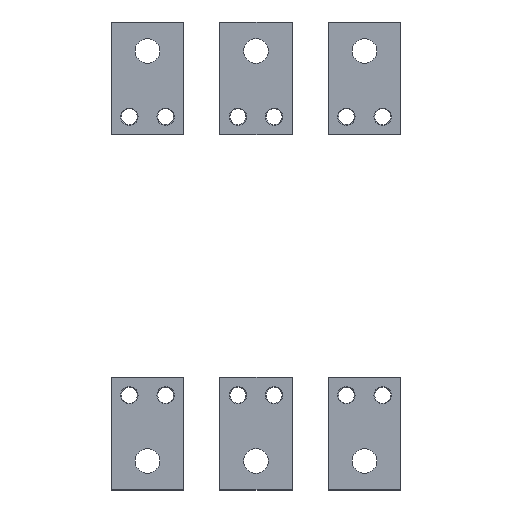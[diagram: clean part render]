
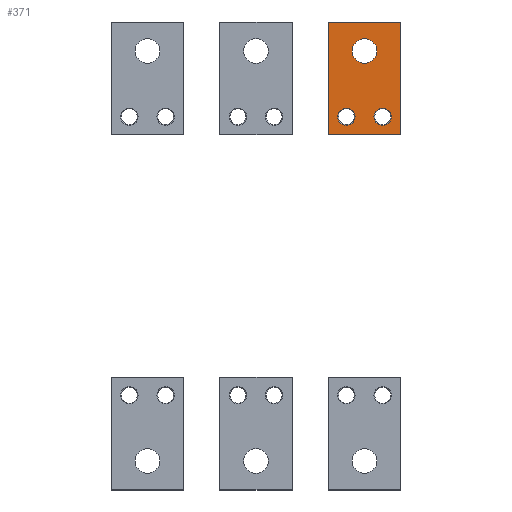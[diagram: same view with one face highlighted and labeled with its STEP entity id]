
A CAD part, top view. The second image highlights one B-rep face of the part: STEP entity #371.
In plain terms, the highlighted planar face has unit normal (0, 0, 1).
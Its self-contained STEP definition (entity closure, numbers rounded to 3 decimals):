
#19 = VERTEX_POINT ( 'NONE', #2796 ) ;
#23 = DIRECTION ( 'NONE',  ( -1., 0., 0. ) ) ;
#133 = CARTESIAN_POINT ( 'NONE',  ( 83.5, 141.7, 37.75 ) ) ;
#171 = VERTEX_POINT ( 'NONE', #133 ) ;
#258 = DIRECTION ( 'NONE',  ( -1., 0., 0. ) ) ;
#268 = AXIS2_PLACEMENT_3D ( 'NONE', #3243, #3887, #3191 ) ;
#285 = ORIENTED_EDGE ( 'NONE', *, *, #2612, .T. ) ;
#293 = AXIS2_PLACEMENT_3D ( 'NONE', #2474, #3850, #3524 ) ;
#321 = CARTESIAN_POINT ( 'NONE',  ( 75., 141.7, 37.75 ) ) ;
#371 = ADVANCED_FACE ( 'NONE', ( #1060, #1971, #2928, #3288 ), #1953, .T. ) ;
#410 = LINE ( 'NONE', #3960, #4114 ) ;
#522 = DIRECTION ( 'NONE',  ( 0., -1., 0. ) ) ;
#572 = ORIENTED_EDGE ( 'NONE', *, *, #2655, .T. ) ;
#619 = AXIS2_PLACEMENT_3D ( 'NONE', #321, #2687, #4074 ) ;
#622 = CARTESIAN_POINT ( 'NONE',  ( 56.5, 96.2, 37.75 ) ) ;
#632 = AXIS2_PLACEMENT_3D ( 'NONE', #1684, #1279, #1639 ) ;
#727 = CARTESIAN_POINT ( 'NONE',  ( 62.5, 96.2, 37.75 ) ) ;
#764 = CARTESIAN_POINT ( 'NONE',  ( 100., 83.7, 37.75 ) ) ;
#809 = ORIENTED_EDGE ( 'NONE', *, *, #3052, .F. ) ;
#817 = CARTESIAN_POINT ( 'NONE',  ( 66.5, 141.7, 37.75 ) ) ;
#841 = EDGE_LOOP ( 'NONE', ( #2939, #572 ) ) ;
#885 = CARTESIAN_POINT ( 'NONE',  ( 68.5, 96.2, 37.75 ) ) ;
#991 = LINE ( 'NONE', #1905, #3212 ) ;
#1020 = EDGE_CURVE ( 'NONE', #4365, #1793, #2222, .T. ) ;
#1060 = FACE_BOUND ( 'NONE', #841, .T. ) ;
#1088 = DIRECTION ( 'NONE',  ( 0., 1., 0. ) ) ;
#1138 = DIRECTION ( 'NONE',  ( 0., 0., -1. ) ) ;
#1187 = AXIS2_PLACEMENT_3D ( 'NONE', #2038, #1698, #23 ) ;
#1234 = EDGE_CURVE ( 'NONE', #4068, #3106, #1399, .T. ) ;
#1279 = DIRECTION ( 'NONE',  ( 0., 0., -1. ) ) ;
#1316 = DIRECTION ( 'NONE',  ( 0., 0., 1. ) ) ;
#1397 = LINE ( 'NONE', #764, #2428 ) ;
#1399 = CIRCLE ( 'NONE', #632, 6. ) ;
#1639 = DIRECTION ( 'NONE',  ( -1., 0., 0. ) ) ;
#1645 = EDGE_CURVE ( 'NONE', #3166, #19, #991, .T. ) ;
#1656 = EDGE_LOOP ( 'NONE', ( #809, #2212 ) ) ;
#1684 = CARTESIAN_POINT ( 'NONE',  ( 87.5, 96.2, 37.75 ) ) ;
#1698 = DIRECTION ( 'NONE',  ( 0., 0., 1. ) ) ;
#1749 = EDGE_CURVE ( 'NONE', #19, #3219, #2471, .T. ) ;
#1758 = EDGE_CURVE ( 'NONE', #2763, #3166, #410, .T. ) ;
#1793 = VERTEX_POINT ( 'NONE', #622 ) ;
#1905 = CARTESIAN_POINT ( 'NONE',  ( 50., 83.7, 37.75 ) ) ;
#1922 = CARTESIAN_POINT ( 'NONE',  ( 100., 83.7, 37.75 ) ) ;
#1937 = AXIS2_PLACEMENT_3D ( 'NONE', #3312, #1316, #4032 ) ;
#1944 = ORIENTED_EDGE ( 'NONE', *, *, #1645, .T. ) ;
#1953 = PLANE ( 'NONE',  #1937 ) ;
#1971 = FACE_BOUND ( 'NONE', #3967, .T. ) ;
#1987 = CARTESIAN_POINT ( 'NONE',  ( 50., 161.7, 37.75 ) ) ;
#2038 = CARTESIAN_POINT ( 'NONE',  ( 75., 141.7, 37.75 ) ) ;
#2095 = VECTOR ( 'NONE', #2668, 1000. ) ;
#2212 = ORIENTED_EDGE ( 'NONE', *, *, #4036, .F. ) ;
#2222 = CIRCLE ( 'NONE', #268, 6. ) ;
#2311 = EDGE_LOOP ( 'NONE', ( #3870, #3046, #1944, #2852 ) ) ;
#2428 = VECTOR ( 'NONE', #1088, 1000. ) ;
#2433 = CIRCLE ( 'NONE', #619, 8.5 ) ;
#2471 = LINE ( 'NONE', #1922, #2095 ) ;
#2474 = CARTESIAN_POINT ( 'NONE',  ( 87.5, 96.2, 37.75 ) ) ;
#2612 = EDGE_CURVE ( 'NONE', #1793, #4365, #4106, .T. ) ;
#2655 = EDGE_CURVE ( 'NONE', #3106, #4068, #3351, .T. ) ;
#2668 = DIRECTION ( 'NONE',  ( 1., 0., 0. ) ) ;
#2687 = DIRECTION ( 'NONE',  ( 0., 0., 1. ) ) ;
#2732 = CARTESIAN_POINT ( 'NONE',  ( 100., 83.7, 37.75 ) ) ;
#2763 = VERTEX_POINT ( 'NONE', #4057 ) ;
#2796 = CARTESIAN_POINT ( 'NONE',  ( 50., 83.7, 37.75 ) ) ;
#2852 = ORIENTED_EDGE ( 'NONE', *, *, #1749, .T. ) ;
#2928 = FACE_OUTER_BOUND ( 'NONE', #2311, .T. ) ;
#2939 = ORIENTED_EDGE ( 'NONE', *, *, #1234, .T. ) ;
#2974 = DIRECTION ( 'NONE',  ( -1., 0., 0. ) ) ;
#3046 = ORIENTED_EDGE ( 'NONE', *, *, #1758, .T. ) ;
#3052 = EDGE_CURVE ( 'NONE', #171, #3352, #4259, .T. ) ;
#3092 = CARTESIAN_POINT ( 'NONE',  ( 81.5, 96.2, 37.75 ) ) ;
#3106 = VERTEX_POINT ( 'NONE', #3357 ) ;
#3166 = VERTEX_POINT ( 'NONE', #1987 ) ;
#3191 = DIRECTION ( 'NONE',  ( -1., 0., 0. ) ) ;
#3212 = VECTOR ( 'NONE', #522, 1000. ) ;
#3219 = VERTEX_POINT ( 'NONE', #2732 ) ;
#3243 = CARTESIAN_POINT ( 'NONE',  ( 62.5, 96.2, 37.75 ) ) ;
#3288 = FACE_BOUND ( 'NONE', #1656, .T. ) ;
#3312 = CARTESIAN_POINT ( 'NONE',  ( 100., 161.7, 37.75 ) ) ;
#3351 = CIRCLE ( 'NONE', #293, 6. ) ;
#3352 = VERTEX_POINT ( 'NONE', #817 ) ;
#3357 = CARTESIAN_POINT ( 'NONE',  ( 93.5, 96.2, 37.75 ) ) ;
#3524 = DIRECTION ( 'NONE',  ( -1., 0., 0. ) ) ;
#3689 = AXIS2_PLACEMENT_3D ( 'NONE', #727, #1138, #258 ) ;
#3850 = DIRECTION ( 'NONE',  ( 0., 0., -1. ) ) ;
#3870 = ORIENTED_EDGE ( 'NONE', *, *, #4203, .T. ) ;
#3878 = ORIENTED_EDGE ( 'NONE', *, *, #1020, .T. ) ;
#3887 = DIRECTION ( 'NONE',  ( 0., 0., -1. ) ) ;
#3960 = CARTESIAN_POINT ( 'NONE',  ( 100., 161.7, 37.75 ) ) ;
#3967 = EDGE_LOOP ( 'NONE', ( #285, #3878 ) ) ;
#4032 = DIRECTION ( 'NONE',  ( -1., 0., 0. ) ) ;
#4036 = EDGE_CURVE ( 'NONE', #3352, #171, #2433, .T. ) ;
#4057 = CARTESIAN_POINT ( 'NONE',  ( 100., 161.7, 37.75 ) ) ;
#4068 = VERTEX_POINT ( 'NONE', #3092 ) ;
#4074 = DIRECTION ( 'NONE',  ( -1., 0., 0. ) ) ;
#4106 = CIRCLE ( 'NONE', #3689, 6. ) ;
#4114 = VECTOR ( 'NONE', #2974, 1000. ) ;
#4203 = EDGE_CURVE ( 'NONE', #3219, #2763, #1397, .T. ) ;
#4259 = CIRCLE ( 'NONE', #1187, 8.5 ) ;
#4365 = VERTEX_POINT ( 'NONE', #885 ) ;
